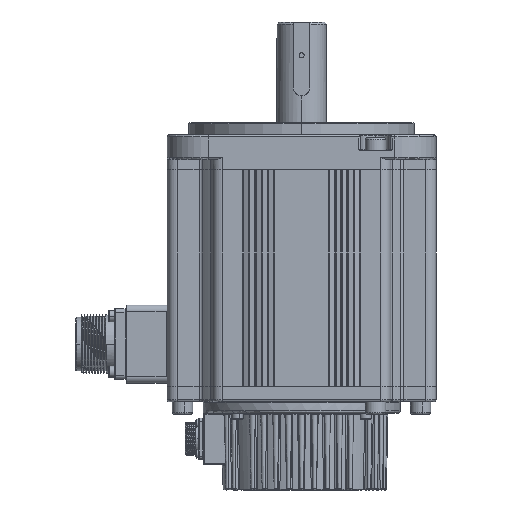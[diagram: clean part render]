
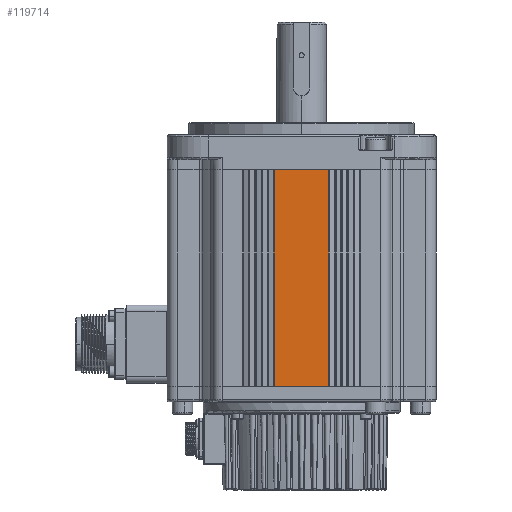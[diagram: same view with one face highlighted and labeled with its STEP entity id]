
A CAD part, left-side view. The second image highlights one B-rep face of the part: STEP entity #119714.
In plain terms, the highlighted planar face has unit normal (-1, 0, 0) as drawn and (1, 0, 0) by its records, which use the part's own axes.
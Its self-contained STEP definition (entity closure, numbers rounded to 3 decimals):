
#1732 = CARTESIAN_POINT ( 'NONE',  ( 65.5, -13.2, 0. ) ) ;
#8420 = EDGE_CURVE ( 'NONE', #89115, #71014, #103643, .T. ) ;
#12486 = DIRECTION ( 'NONE',  ( 0., -1., 0. ) ) ;
#12778 = PLANE ( 'NONE',  #117605 ) ;
#15083 = CARTESIAN_POINT ( 'NONE',  ( 65.5, -13.2, 105.5 ) ) ;
#18927 = ORIENTED_EDGE ( 'NONE', *, *, #33995, .F. ) ;
#22378 = ORIENTED_EDGE ( 'NONE', *, *, #38313, .F. ) ;
#25899 = DIRECTION ( 'NONE',  ( 0., 0., 1. ) ) ;
#28940 = CARTESIAN_POINT ( 'NONE',  ( 65.5, 0., 0. ) ) ;
#29254 = VERTEX_POINT ( 'NONE', #1732 ) ;
#32643 = CARTESIAN_POINT ( 'NONE',  ( 65.5, 13.2, 105.5 ) ) ;
#33031 = VECTOR ( 'NONE', #104219, 1000. ) ;
#33340 = CARTESIAN_POINT ( 'NONE',  ( 65.5, 13.2, 105.5 ) ) ;
#33995 = EDGE_CURVE ( 'NONE', #71014, #29254, #61611, .T. ) ;
#38313 = EDGE_CURVE ( 'NONE', #29254, #76075, #131370, .T. ) ;
#44273 = CARTESIAN_POINT ( 'NONE',  ( 65.5, 13.5, 105.5 ) ) ;
#47561 = FACE_OUTER_BOUND ( 'NONE', #47888, .T. ) ;
#47888 = EDGE_LOOP ( 'NONE', ( #108752, #74888, #22378, #18927 ) ) ;
#61611 = LINE ( 'NONE', #28940, #33031 ) ;
#62306 = CARTESIAN_POINT ( 'NONE',  ( 65.5, 13.2, 0. ) ) ;
#63574 = VECTOR ( 'NONE', #12486, 1000. ) ;
#71014 = VERTEX_POINT ( 'NONE', #62306 ) ;
#71234 = EDGE_CURVE ( 'NONE', #89115, #76075, #71995, .T. ) ;
#71995 = LINE ( 'NONE', #88188, #63574 ) ;
#74888 = ORIENTED_EDGE ( 'NONE', *, *, #71234, .T. ) ;
#76075 = VERTEX_POINT ( 'NONE', #115157 ) ;
#87609 = VECTOR ( 'NONE', #133102, 1000. ) ;
#88188 = CARTESIAN_POINT ( 'NONE',  ( 65.5, 13.5, 105.5 ) ) ;
#89115 = VERTEX_POINT ( 'NONE', #32643 ) ;
#103643 = LINE ( 'NONE', #33340, #125508 ) ;
#104219 = DIRECTION ( 'NONE',  ( 0., -1., 0. ) ) ;
#107728 = DIRECTION ( 'NONE',  ( 0., 0., -1. ) ) ;
#108752 = ORIENTED_EDGE ( 'NONE', *, *, #8420, .F. ) ;
#115157 = CARTESIAN_POINT ( 'NONE',  ( 65.5, -13.2, 105.5 ) ) ;
#117605 = AXIS2_PLACEMENT_3D ( 'NONE', #44273, #119535, #25899 ) ;
#119535 = DIRECTION ( 'NONE',  ( -1., 0., 0. ) ) ;
#119714 = ADVANCED_FACE ( 'NONE', ( #47561 ), #12778, .F. ) ;
#125508 = VECTOR ( 'NONE', #107728, 1000. ) ;
#131370 = LINE ( 'NONE', #15083, #87609 ) ;
#133102 = DIRECTION ( 'NONE',  ( 0., 0., 1. ) ) ;
